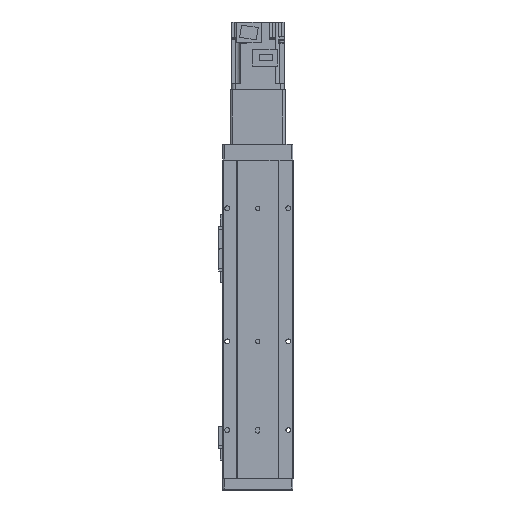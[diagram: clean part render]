
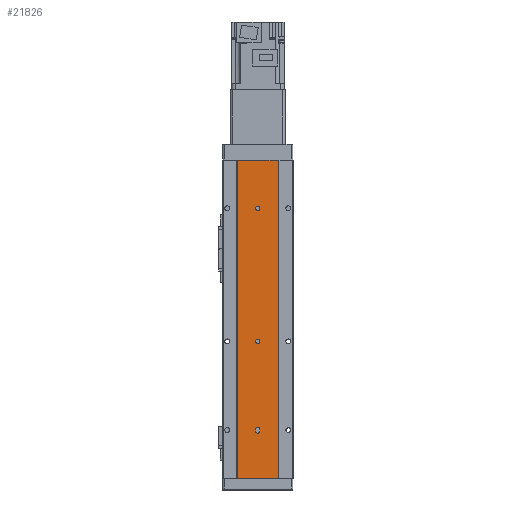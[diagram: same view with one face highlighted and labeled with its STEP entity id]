
A CAD part, front view. The second image highlights one B-rep face of the part: STEP entity #21826.
In plain terms, the highlighted planar face has unit normal (0, -1, 0).
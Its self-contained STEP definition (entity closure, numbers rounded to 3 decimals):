
#1943 = EDGE_LOOP ( 'NONE', ( #4981, #4975, #5010, #4971 ) ) ;
#1946 = EDGE_LOOP ( 'NONE', ( #4979, #4968, #4950, #4983, #4996 ) ) ;
#1952 = EDGE_LOOP ( 'NONE', ( #4972, #5007 ) ) ;
#1989 = EDGE_LOOP ( 'NONE', ( #4963, #5006 ) ) ;
#3727 = VERTEX_POINT ( 'NONE', #32128 ) ;
#3741 = VERTEX_POINT ( 'NONE', #32151 ) ;
#3777 = VERTEX_POINT ( 'NONE', #32135 ) ;
#4121 = VERTEX_POINT ( 'NONE', #33143 ) ;
#4138 = VERTEX_POINT ( 'NONE', #33118 ) ;
#4153 = VERTEX_POINT ( 'NONE', #33095 ) ;
#4154 = VERTEX_POINT ( 'NONE', #33097 ) ;
#4950 = ORIENTED_EDGE ( 'NONE', *, *, #13677, .F. ) ;
#4963 = ORIENTED_EDGE ( 'NONE', *, *, #13690, .F. ) ;
#4968 = ORIENTED_EDGE ( 'NONE', *, *, #13622, .F. ) ;
#4971 = ORIENTED_EDGE ( 'NONE', *, *, #13627, .T. ) ;
#4972 = ORIENTED_EDGE ( 'NONE', *, *, #13760, .F. ) ;
#4975 = ORIENTED_EDGE ( 'NONE', *, *, #13768, .F. ) ;
#4979 = ORIENTED_EDGE ( 'NONE', *, *, #13619, .F. ) ;
#4981 = ORIENTED_EDGE ( 'NONE', *, *, #8891, .F. ) ;
#4983 = ORIENTED_EDGE ( 'NONE', *, *, #13654, .F. ) ;
#4996 = ORIENTED_EDGE ( 'NONE', *, *, #9344, .F. ) ;
#5006 = ORIENTED_EDGE ( 'NONE', *, *, #9333, .F. ) ;
#5007 = ORIENTED_EDGE ( 'NONE', *, *, #9339, .F. ) ;
#5010 = ORIENTED_EDGE ( 'NONE', *, *, #8885, .T. ) ;
#8885 = EDGE_CURVE ( 'NONE', #4121, #4154, #40766, .T. ) ;
#8891 = EDGE_CURVE ( 'NONE', #4153, #4138, #40834, .T. ) ;
#9333 = EDGE_CURVE ( 'NONE', #21178, #21162, #12559, .T. ) ;
#9339 = EDGE_CURVE ( 'NONE', #21123, #21146, #12581, .T. ) ;
#9344 = EDGE_CURVE ( 'NONE', #21213, #21135, #12550, .T. ) ;
#10680 = CARTESIAN_POINT ( 'NONE',  ( -23., 0.5, 0. ) ) ;
#10682 = DIRECTION ( 'NONE',  ( 1., 0., 0. ) ) ;
#10693 = DIRECTION ( 'NONE',  ( 1., 0., 0. ) ) ;
#10712 = CARTESIAN_POINT ( 'NONE',  ( -23., 0.5, -359. ) ) ;
#12002 = CARTESIAN_POINT ( 'NONE',  ( 0., 0.5, -305.5 ) ) ;
#12104 = DIRECTION ( 'NONE',  ( 1., 0., 0. ) ) ;
#12107 = CARTESIAN_POINT ( 'NONE',  ( 0., 0.5, -54.5 ) ) ;
#12116 = CARTESIAN_POINT ( 'NONE',  ( 0., 0.5, -204.5 ) ) ;
#12129 = DIRECTION ( 'NONE',  ( 0., -1., 0. ) ) ;
#12132 = DIRECTION ( 'NONE',  ( 1., 0., 0. ) ) ;
#12137 = DIRECTION ( 'NONE',  ( 0., -1., 0. ) ) ;
#12141 = CARTESIAN_POINT ( 'NONE',  ( 0., 0.5, -305.5 ) ) ;
#12160 = DIRECTION ( 'NONE',  ( 0., -1., 0. ) ) ;
#12163 = DIRECTION ( 'NONE',  ( 1., 0., 0. ) ) ;
#12188 = DIRECTION ( 'NONE',  ( 0., -1., 0. ) ) ;
#12192 = DIRECTION ( 'NONE',  ( 1., 0., 0. ) ) ;
#12550 = CIRCLE ( 'NONE', #36601, 2.5 ) ;
#12559 = CIRCLE ( 'NONE', #36575, 2.5 ) ;
#12581 = CIRCLE ( 'NONE', #36633, 2.5 ) ;
#13087 = CIRCLE ( 'NONE', #36705, 2.5 ) ;
#13090 = LINE ( 'NONE', #15470, #13094 ) ;
#13094 = VECTOR ( 'NONE', #15443, 1000. ) ;
#13100 = LINE ( 'NONE', #15413, #13107 ) ;
#13105 = LINE ( 'NONE', #15403, #13121 ) ;
#13107 = VECTOR ( 'NONE', #15390, 1000. ) ;
#13121 = VECTOR ( 'NONE', #15406, 1000. ) ;
#13171 = CIRCLE ( 'NONE', #36698, 2.5 ) ;
#13204 = CIRCLE ( 'NONE', #36713, 2.5 ) ;
#13231 = LINE ( 'NONE', #15558, #13233 ) ;
#13233 = VECTOR ( 'NONE', #15565, 1000. ) ;
#13263 = CIRCLE ( 'NONE', #36718, 2.5 ) ;
#13619 = EDGE_CURVE ( 'NONE', #3777, #21213, #13087, .T. ) ;
#13622 = EDGE_CURVE ( 'NONE', #3741, #3777, #13100, .T. ) ;
#13627 = EDGE_CURVE ( 'NONE', #4154, #4138, #13105, .T. ) ;
#13654 = EDGE_CURVE ( 'NONE', #21135, #3727, #13090, .T. ) ;
#13677 = EDGE_CURVE ( 'NONE', #3727, #3741, #13204, .T. ) ;
#13690 = EDGE_CURVE ( 'NONE', #21162, #21178, #13171, .T. ) ;
#13760 = EDGE_CURVE ( 'NONE', #21146, #21123, #13263, .T. ) ;
#13768 = EDGE_CURVE ( 'NONE', #4121, #4153, #13231, .T. ) ;
#15390 = DIRECTION ( 'NONE',  ( 0., 0., -1. ) ) ;
#15403 = CARTESIAN_POINT ( 'NONE',  ( 23., 0.5, -359. ) ) ;
#15406 = DIRECTION ( 'NONE',  ( 0., 0., 1. ) ) ;
#15413 = CARTESIAN_POINT ( 'NONE',  ( -2.5, 0.5, -359. ) ) ;
#15443 = DIRECTION ( 'NONE',  ( 0., 0., 1. ) ) ;
#15453 = DIRECTION ( 'NONE',  ( 1., 0., 0. ) ) ;
#15461 = DIRECTION ( 'NONE',  ( 0., -1., 0. ) ) ;
#15466 = CARTESIAN_POINT ( 'NONE',  ( 0., 0.5, -303.5 ) ) ;
#15470 = CARTESIAN_POINT ( 'NONE',  ( 2.5, 0.5, -359. ) ) ;
#15472 = DIRECTION ( 'NONE',  ( 1., 0., 0. ) ) ;
#15483 = DIRECTION ( 'NONE',  ( 0., -1., 0. ) ) ;
#15504 = CARTESIAN_POINT ( 'NONE',  ( 0., 0.5, -54.5 ) ) ;
#15558 = CARTESIAN_POINT ( 'NONE',  ( -23., 0.5, -359. ) ) ;
#15565 = DIRECTION ( 'NONE',  ( 0., 0., 1. ) ) ;
#15581 = DIRECTION ( 'NONE',  ( 0., -1., 0. ) ) ;
#15590 = CARTESIAN_POINT ( 'NONE',  ( 0., 0.5, -204.5 ) ) ;
#15591 = DIRECTION ( 'NONE',  ( 1., 0., 0. ) ) ;
#18367 = DIRECTION ( 'NONE',  ( 1., 0., 0. ) ) ;
#18372 = DIRECTION ( 'NONE',  ( 0., -1., 0. ) ) ;
#18378 = PLANE ( 'NONE',  #29313 ) ;
#18400 = CARTESIAN_POINT ( 'NONE',  ( -23., 0.5, -359. ) ) ;
#21123 = VERTEX_POINT ( 'NONE', #26986 ) ;
#21135 = VERTEX_POINT ( 'NONE', #27021 ) ;
#21146 = VERTEX_POINT ( 'NONE', #27012 ) ;
#21162 = VERTEX_POINT ( 'NONE', #27064 ) ;
#21178 = VERTEX_POINT ( 'NONE', #27066 ) ;
#21213 = VERTEX_POINT ( 'NONE', #27045 ) ;
#21826 = ADVANCED_FACE ( 'NONE', ( #31782, #31776, #31772, #31783 ), #18378, .T. ) ;
#26986 = CARTESIAN_POINT ( 'NONE',  ( 0., 0.5, -202. ) ) ;
#27012 = CARTESIAN_POINT ( 'NONE',  ( 0., 0.5, -207. ) ) ;
#27021 = CARTESIAN_POINT ( 'NONE',  ( 2.5, 0.5, -305.5 ) ) ;
#27045 = CARTESIAN_POINT ( 'NONE',  ( 0., 0.5, -308. ) ) ;
#27064 = CARTESIAN_POINT ( 'NONE',  ( 0., 0.5, -57. ) ) ;
#27066 = CARTESIAN_POINT ( 'NONE',  ( 0., 0.5, -52. ) ) ;
#29313 = AXIS2_PLACEMENT_3D ( 'NONE', #18400, #18372, #18367 ) ;
#31772 = FACE_BOUND ( 'NONE', #1989, .T. ) ;
#31776 = FACE_BOUND ( 'NONE', #1952, .T. ) ;
#31782 = FACE_BOUND ( 'NONE', #1946, .T. ) ;
#31783 = FACE_OUTER_BOUND ( 'NONE', #1943, .T. ) ;
#32128 = CARTESIAN_POINT ( 'NONE',  ( 2.5, 0.5, -303.5 ) ) ;
#32135 = CARTESIAN_POINT ( 'NONE',  ( -2.5, 0.5, -305.5 ) ) ;
#32151 = CARTESIAN_POINT ( 'NONE',  ( -2.5, 0.5, -303.5 ) ) ;
#33095 = CARTESIAN_POINT ( 'NONE',  ( -23., 0.5, 0. ) ) ;
#33097 = CARTESIAN_POINT ( 'NONE',  ( 23., 0.5, -359. ) ) ;
#33118 = CARTESIAN_POINT ( 'NONE',  ( 23., 0.5, 0. ) ) ;
#33143 = CARTESIAN_POINT ( 'NONE',  ( -23., 0.5, -359. ) ) ;
#36575 = AXIS2_PLACEMENT_3D ( 'NONE', #12107, #12129, #12104 ) ;
#36601 = AXIS2_PLACEMENT_3D ( 'NONE', #12141, #12160, #12163 ) ;
#36633 = AXIS2_PLACEMENT_3D ( 'NONE', #12116, #12137, #12132 ) ;
#36698 = AXIS2_PLACEMENT_3D ( 'NONE', #15504, #15483, #15472 ) ;
#36705 = AXIS2_PLACEMENT_3D ( 'NONE', #12002, #12188, #12192 ) ;
#36713 = AXIS2_PLACEMENT_3D ( 'NONE', #15466, #15461, #15453 ) ;
#36718 = AXIS2_PLACEMENT_3D ( 'NONE', #15590, #15581, #15591 ) ;
#40766 = LINE ( 'NONE', #10712, #40776 ) ;
#40776 = VECTOR ( 'NONE', #10682, 1000. ) ;
#40834 = LINE ( 'NONE', #10680, #40841 ) ;
#40841 = VECTOR ( 'NONE', #10693, 1000. ) ;
